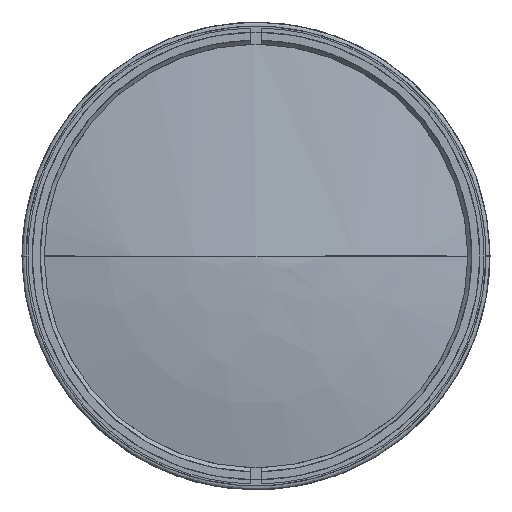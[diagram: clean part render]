
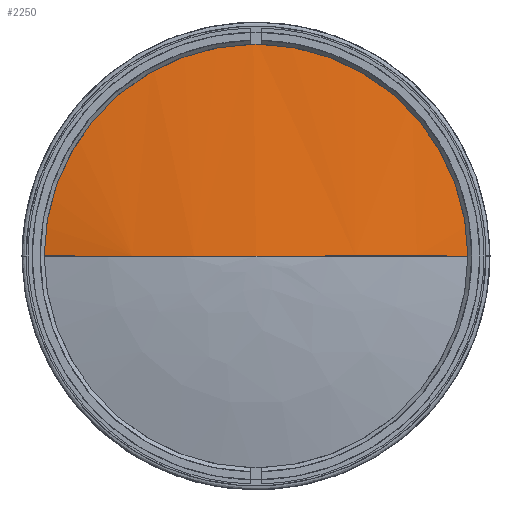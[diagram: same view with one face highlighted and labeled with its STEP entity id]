
A CAD part, left-side view. The second image highlights one B-rep face of the part: STEP entity #2250.
In plain terms, the highlighted face is a revolution surface.
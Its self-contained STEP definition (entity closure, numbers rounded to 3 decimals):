
#2250 = ADVANCED_FACE('',(#2251),#2269,.T.);
#2251 = FACE_BOUND('',#2252,.T.);
#2252 = EDGE_LOOP('',(#2253,#2283,#2302,#2321));
#2253 = ORIENTED_EDGE('',*,*,#2254,.F.);
#2254 = EDGE_CURVE('',#2255,#2257,#2259,.T.);
#2255 = VERTEX_POINT('',#2256);
#2256 = CARTESIAN_POINT('',(-232.504,0.,
    0.));
#2257 = VERTEX_POINT('',#2258);
#2258 = CARTESIAN_POINT('',(-226.429,-55.,
    0.));
#2259 = SURFACE_CURVE('',#2260,(#2268),.PCURVE_S1.);
#2260 = ( BOUNDED_CURVE() B_SPLINE_CURVE(6,(#2261,#2262,#2263,#2264,
#2265,#2266,#2267),.UNSPECIFIED.,.F.,.F.) B_SPLINE_CURVE_WITH_KNOTS((7,7
),(0.,1.),.PIECEWISE_BEZIER_KNOTS.) CURVE() 
GEOMETRIC_REPRESENTATION_ITEM() RATIONAL_B_SPLINE_CURVE((1.001,
    1.,1.,1.,1.,
1.,1.001)) REPRESENTATION_ITEM('') );
#2261 = CARTESIAN_POINT('',(-232.504,0.,
    0.));
#2262 = CARTESIAN_POINT('',(-232.504,-9.245,
    0.));
#2263 = CARTESIAN_POINT('',(-232.097,-18.485,
    0.));
#2264 = CARTESIAN_POINT('',(-231.284,-27.701,
    0.));
#2265 = CARTESIAN_POINT('',(-230.066,-36.872,
    0.));
#2266 = CARTESIAN_POINT('',(-228.446,-45.978,
    0.));
#2267 = CARTESIAN_POINT('',(-226.429,-55.,
    0.));
#2268 = PCURVE('',#2269,#2278);
#2269 = SURFACE_OF_REVOLUTION('',#2270,#2275);
#2270 = CIRCLE('',#2271,252.);
#2271 = AXIS2_PLACEMENT_3D('',#2272,#2273,#2274);
#2272 = CARTESIAN_POINT('',(19.496,0.,
    0.));
#2273 = DIRECTION('',(0.,0.,-1.));
#2274 = DIRECTION('',(1.,0.,0.));
#2275 = AXIS1_PLACEMENT('',#2276,#2277);
#2276 = CARTESIAN_POINT('',(19.496,0.,0.));
#2277 = DIRECTION('',(1.,0.,0.));
#2278 = DEFINITIONAL_REPRESENTATION('',(#2279),#2282);
#2279 = B_SPLINE_CURVE_WITH_KNOTS('',1,(#2280,#2281),.UNSPECIFIED.,.F.,
  .F.,(2,2),(0.,1.),.PIECEWISE_BEZIER_KNOTS.);
#2280 = CARTESIAN_POINT('',(6.283,3.142));
#2281 = CARTESIAN_POINT('',(6.283,2.922));
#2282 = ( GEOMETRIC_REPRESENTATION_CONTEXT(2) 
PARAMETRIC_REPRESENTATION_CONTEXT() REPRESENTATION_CONTEXT('',''
  ) );
#2283 = ORIENTED_EDGE('',*,*,#2284,.F.);
#2284 = EDGE_CURVE('',#2285,#2255,#2287,.T.);
#2285 = VERTEX_POINT('',#2286);
#2286 = CARTESIAN_POINT('',(-232.504,0.,
    0.));
#2287 = SURFACE_CURVE('',#2288,(#2296),.PCURVE_S1.);
#2288 = ( BOUNDED_CURVE() B_SPLINE_CURVE(6,(#2289,#2290,#2291,#2292,
#2293,#2294,#2295),.UNSPECIFIED.,.F.,.F.) B_SPLINE_CURVE_WITH_KNOTS((7,7
),(0.,1.),.PIECEWISE_BEZIER_KNOTS.) CURVE() 
GEOMETRIC_REPRESENTATION_ITEM() RATIONAL_B_SPLINE_CURVE((1.133,
    1.036,0.992,0.976,0.992,
1.036,1.133)) REPRESENTATION_ITEM('') );
#2289 = CARTESIAN_POINT('',(-232.504,0.,
    0.));
#2290 = CARTESIAN_POINT('',(-232.504,0.,
    0.));
#2291 = CARTESIAN_POINT('',(-232.504,0.,
    0.));
#2292 = CARTESIAN_POINT('',(-232.504,0.,
    0.));
#2293 = CARTESIAN_POINT('',(-232.504,0.,
    0.));
#2294 = CARTESIAN_POINT('',(-232.504,0.,
    0.));
#2295 = CARTESIAN_POINT('',(-232.504,0.,
    0.));
#2296 = PCURVE('',#2269,#2297);
#2297 = DEFINITIONAL_REPRESENTATION('',(#2298),#2301);
#2298 = B_SPLINE_CURVE_WITH_KNOTS('',1,(#2299,#2300),.UNSPECIFIED.,.F.,
  .F.,(2,2),(0.,1.),.PIECEWISE_BEZIER_KNOTS.);
#2299 = CARTESIAN_POINT('',(3.142,3.142));
#2300 = CARTESIAN_POINT('',(6.283,3.142));
#2301 = ( GEOMETRIC_REPRESENTATION_CONTEXT(2) 
PARAMETRIC_REPRESENTATION_CONTEXT() REPRESENTATION_CONTEXT('',''
  ) );
#2302 = ORIENTED_EDGE('',*,*,#2303,.F.);
#2303 = EDGE_CURVE('',#2304,#2285,#2306,.T.);
#2304 = VERTEX_POINT('',#2305);
#2305 = CARTESIAN_POINT('',(-226.429,55.,
    0.));
#2306 = SURFACE_CURVE('',#2307,(#2315),.PCURVE_S1.);
#2307 = ( BOUNDED_CURVE() B_SPLINE_CURVE(6,(#2308,#2309,#2310,#2311,
#2312,#2313,#2314),.UNSPECIFIED.,.F.,.F.) B_SPLINE_CURVE_WITH_KNOTS((7,7
),(0.,1.),.PIECEWISE_BEZIER_KNOTS.) CURVE() 
GEOMETRIC_REPRESENTATION_ITEM() RATIONAL_B_SPLINE_CURVE((1.001,
    1.,1.,1.,1.,
1.,1.001)) REPRESENTATION_ITEM('') );
#2308 = CARTESIAN_POINT('',(-226.429,55.,
    0.));
#2309 = CARTESIAN_POINT('',(-228.446,45.978,
    0.));
#2310 = CARTESIAN_POINT('',(-230.066,36.872,
    0.));
#2311 = CARTESIAN_POINT('',(-231.284,27.701,
    0.));
#2312 = CARTESIAN_POINT('',(-232.097,18.485,
    0.));
#2313 = CARTESIAN_POINT('',(-232.504,9.245,
    0.));
#2314 = CARTESIAN_POINT('',(-232.504,0.,
    0.));
#2315 = PCURVE('',#2269,#2316);
#2316 = DEFINITIONAL_REPRESENTATION('',(#2317),#2320);
#2317 = B_SPLINE_CURVE_WITH_KNOTS('',1,(#2318,#2319),.UNSPECIFIED.,.F.,
  .F.,(2,2),(0.,1.),.PIECEWISE_BEZIER_KNOTS.);
#2318 = CARTESIAN_POINT('',(3.142,2.922));
#2319 = CARTESIAN_POINT('',(3.142,3.142));
#2320 = ( GEOMETRIC_REPRESENTATION_CONTEXT(2) 
PARAMETRIC_REPRESENTATION_CONTEXT() REPRESENTATION_CONTEXT('',''
  ) );
#2321 = ORIENTED_EDGE('',*,*,#2322,.F.);
#2322 = EDGE_CURVE('',#2257,#2304,#2323,.T.);
#2323 = SURFACE_CURVE('',#2324,(#2335),.PCURVE_S1.);
#2324 = B_SPLINE_CURVE_WITH_KNOTS('',9,(#2325,#2326,#2327,#2328,#2329,
    #2330,#2331,#2332,#2333,#2334),.UNSPECIFIED.,.F.,.F.,(10,10),(0.,1.)
  ,.PIECEWISE_BEZIER_KNOTS.);
#2325 = CARTESIAN_POINT('',(-226.429,-55.,
    0.));
#2326 = CARTESIAN_POINT('',(-226.429,-55.,
    19.199));
#2327 = CARTESIAN_POINT('',(-226.429,-47.461,
    38.397));
#2328 = CARTESIAN_POINT('',(-226.429,-32.382,
    54.211));
#2329 = CARTESIAN_POINT('',(-226.429,-11.537,
    63.263));
#2330 = CARTESIAN_POINT('',(-226.429,11.537,
    63.263));
#2331 = CARTESIAN_POINT('',(-226.429,32.382,
    54.211));
#2332 = CARTESIAN_POINT('',(-226.429,47.461,
    38.397));
#2333 = CARTESIAN_POINT('',(-226.429,55.,
    19.199));
#2334 = CARTESIAN_POINT('',(-226.429,55.,
    0.));
#2335 = PCURVE('',#2269,#2336);
#2336 = DEFINITIONAL_REPRESENTATION('',(#2337),#2340);
#2337 = B_SPLINE_CURVE_WITH_KNOTS('',1,(#2338,#2339),.UNSPECIFIED.,.F.,
  .F.,(2,2),(0.,1.),.PIECEWISE_BEZIER_KNOTS.);
#2338 = CARTESIAN_POINT('',(6.283,2.922));
#2339 = CARTESIAN_POINT('',(3.142,2.922));
#2340 = ( GEOMETRIC_REPRESENTATION_CONTEXT(2) 
PARAMETRIC_REPRESENTATION_CONTEXT() REPRESENTATION_CONTEXT('',''
  ) );
